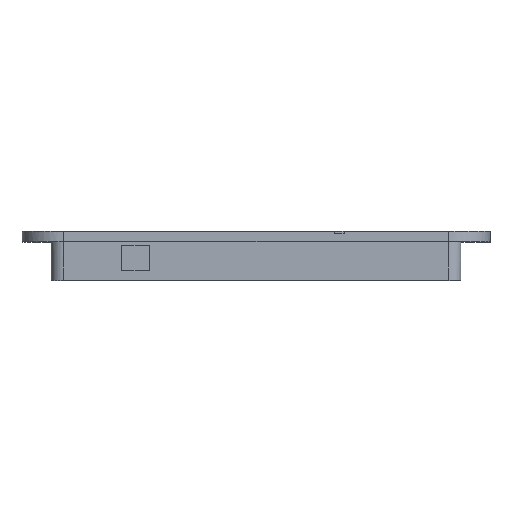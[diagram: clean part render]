
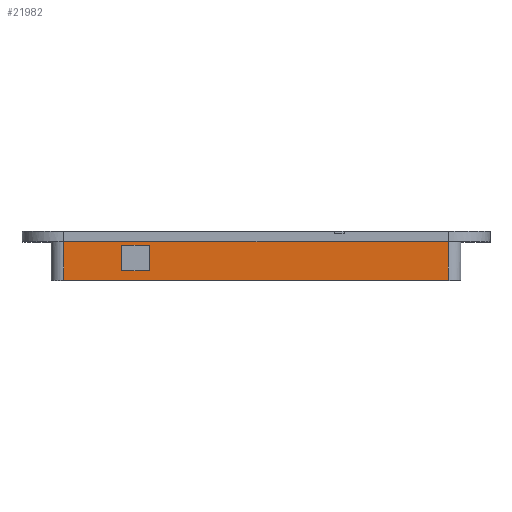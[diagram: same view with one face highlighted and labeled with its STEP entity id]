
A CAD part, top view. The second image highlights one B-rep face of the part: STEP entity #21982.
In plain terms, the highlighted free-form (B-spline) face has degree [1, 1] with [2, 2] control points.
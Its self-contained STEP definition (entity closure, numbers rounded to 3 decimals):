
#328 = CARTESIAN_POINT ( 'NONE',  ( -83., -123.7, 88.4 ) ) ;
#952 = ORIENTED_EDGE ( 'NONE', *, *, #31150, .F. ) ;
#977 = EDGE_CURVE ( 'NONE', #11207, #2646, #26441, .T. ) ;
#988 = VERTEX_POINT ( 'NONE', #21601 ) ;
#1149 = ORIENTED_EDGE ( 'NONE', *, *, #977, .F. ) ;
#2554 = EDGE_CURVE ( 'NONE', #8623, #11207, #11636, .T. ) ;
#2646 = VERTEX_POINT ( 'NONE', #5774 ) ;
#2700 = B_SPLINE_CURVE_WITH_KNOTS ( 'NONE', 1,
 ( #26110, #7542 ),
 .UNSPECIFIED., .F., .F.,
 ( 2, 2 ),
 ( 0., 1. ),
 .UNSPECIFIED. ) ;
#3053 = ORIENTED_EDGE ( 'NONE', *, *, #6230, .F. ) ;
#4961 = VERTEX_POINT ( 'NONE', #33597 ) ;
#4980 = EDGE_CURVE ( 'NONE', #24615, #4961, #11233, .T. ) ;
#5341 = CARTESIAN_POINT ( 'NONE',  ( -83., -107., 88.4 ) ) ;
#5682 = FACE_BOUND ( 'NONE', #5913, .T. ) ;
#5774 = CARTESIAN_POINT ( 'NONE',  ( -46., -119.7, 88.4 ) ) ;
#5913 = EDGE_LOOP ( 'NONE', ( #31842, #952, #11169, #1149 ) ) ;
#6171 = CARTESIAN_POINT ( 'NONE',  ( -83., -107., 88.4 ) ) ;
#6230 = EDGE_CURVE ( 'NONE', #24615, #988, #30421, .T. ) ;
#7268 = CARTESIAN_POINT ( 'NONE',  ( 83., -123.7, 88.4 ) ) ;
#7542 = CARTESIAN_POINT ( 'NONE',  ( -46., -108.7, 88.4 ) ) ;
#8002 = B_SPLINE_CURVE_WITH_KNOTS ( 'NONE', 1,
 ( #31876, #8306 ),
 .UNSPECIFIED., .F., .F.,
 ( 2, 2 ),
 ( 0., 1. ),
 .UNSPECIFIED. ) ;
#8306 = CARTESIAN_POINT ( 'NONE',  ( 83., -107., 88.4 ) ) ;
#8623 = VERTEX_POINT ( 'NONE', #13908 ) ;
#9380 = VERTEX_POINT ( 'NONE', #23976 ) ;
#9847 = CARTESIAN_POINT ( 'NONE',  ( -83., -123.7, 88.4 ) ) ;
#10676 = CARTESIAN_POINT ( 'NONE',  ( -83., -107., 88.4 ) ) ;
#11169 = ORIENTED_EDGE ( 'NONE', *, *, #25784, .F. ) ;
#11207 = VERTEX_POINT ( 'NONE', #22347 ) ;
#11233 = B_SPLINE_CURVE_WITH_KNOTS ( 'NONE', 1,
 ( #9847, #7268 ),
 .UNSPECIFIED., .F., .F.,
 ( 2, 2 ),
 ( 0., 1. ),
 .UNSPECIFIED. ) ;
#11616 = CARTESIAN_POINT ( 'NONE',  ( -58., -108.7, 88.4 ) ) ;
#11628 = ORIENTED_EDGE ( 'NONE', *, *, #4980, .T. ) ;
#11636 = B_SPLINE_CURVE_WITH_KNOTS ( 'NONE', 1,
 ( #11616, #24527 ),
 .UNSPECIFIED., .F., .F.,
 ( 2, 2 ),
 ( 0., 1. ),
 .UNSPECIFIED. ) ;
#13198 = EDGE_LOOP ( 'NONE', ( #3053, #11628, #15594, #14623 ) ) ;
#13343 = CARTESIAN_POINT ( 'NONE',  ( -58., -108.7, 88.4 ) ) ;
#13409 = CARTESIAN_POINT ( 'NONE',  ( -83., -123.7, 88.4 ) ) ;
#13908 = CARTESIAN_POINT ( 'NONE',  ( -58., -108.7, 88.4 ) ) ;
#14586 = CARTESIAN_POINT ( 'NONE',  ( -46., -108.7, 88.4 ) ) ;
#14623 = ORIENTED_EDGE ( 'NONE', *, *, #15078, .F. ) ;
#15078 = EDGE_CURVE ( 'NONE', #988, #9380, #15868, .T. ) ;
#15594 = ORIENTED_EDGE ( 'NONE', *, *, #28204, .T. ) ;
#15660 = CARTESIAN_POINT ( 'NONE',  ( 83., -107., 88.4 ) ) ;
#15868 = B_SPLINE_CURVE_WITH_KNOTS ( 'NONE', 1,
 ( #6171, #26646 ),
 .UNSPECIFIED., .F., .F.,
 ( 2, 2 ),
 ( 0., 1. ),
 .UNSPECIFIED. ) ;
#21601 = CARTESIAN_POINT ( 'NONE',  ( -83., -107., 88.4 ) ) ;
#21982 = ADVANCED_FACE ( 'NONE', ( #5682, #26499 ), #23090, .F. ) ;
#22094 = CARTESIAN_POINT ( 'NONE',  ( -58., -119.7, 88.4 ) ) ;
#22347 = CARTESIAN_POINT ( 'NONE',  ( -58., -119.7, 88.4 ) ) ;
#23090 = B_SPLINE_SURFACE_WITH_KNOTS ( 'NONE', 1, 1, ( 
 ( #23227, #15660 ),
 ( #328, #10676 ) ),
 .UNSPECIFIED., .F., .F., .F.,
 ( 2, 2 ),
 ( 2, 2 ),
 ( 0., 1. ),
 ( 0., 1. ),
 .UNSPECIFIED. ) ;
#23227 = CARTESIAN_POINT ( 'NONE',  ( 83., -123.7, 88.4 ) ) ;
#23976 = CARTESIAN_POINT ( 'NONE',  ( 83., -107., 88.4 ) ) ;
#24527 = CARTESIAN_POINT ( 'NONE',  ( -58., -119.7, 88.4 ) ) ;
#24615 = VERTEX_POINT ( 'NONE', #13409 ) ;
#25784 = EDGE_CURVE ( 'NONE', #2646, #33178, #2700, .T. ) ;
#26110 = CARTESIAN_POINT ( 'NONE',  ( -46., -119.7, 88.4 ) ) ;
#26169 = CARTESIAN_POINT ( 'NONE',  ( -83., -123.7, 88.4 ) ) ;
#26441 = B_SPLINE_CURVE_WITH_KNOTS ( 'NONE', 1,
 ( #22094, #29663 ),
 .UNSPECIFIED., .F., .F.,
 ( 2, 2 ),
 ( 0., 1. ),
 .UNSPECIFIED. ) ;
#26499 = FACE_OUTER_BOUND ( 'NONE', #13198, .T. ) ;
#26646 = CARTESIAN_POINT ( 'NONE',  ( 83., -107., 88.4 ) ) ;
#26756 = CARTESIAN_POINT ( 'NONE',  ( -46., -108.7, 88.4 ) ) ;
#28204 = EDGE_CURVE ( 'NONE', #4961, #9380, #8002, .T. ) ;
#29663 = CARTESIAN_POINT ( 'NONE',  ( -46., -119.7, 88.4 ) ) ;
#30421 = B_SPLINE_CURVE_WITH_KNOTS ( 'NONE', 1,
 ( #26169, #5341 ),
 .UNSPECIFIED., .F., .F.,
 ( 2, 2 ),
 ( -1., 0. ),
 .UNSPECIFIED. ) ;
#31150 = EDGE_CURVE ( 'NONE', #33178, #8623, #32169, .T. ) ;
#31842 = ORIENTED_EDGE ( 'NONE', *, *, #2554, .F. ) ;
#31876 = CARTESIAN_POINT ( 'NONE',  ( 83., -123.7, 88.4 ) ) ;
#32169 = B_SPLINE_CURVE_WITH_KNOTS ( 'NONE', 1,
 ( #26756, #13343 ),
 .UNSPECIFIED., .F., .F.,
 ( 2, 2 ),
 ( 0., 1. ),
 .UNSPECIFIED. ) ;
#33178 = VERTEX_POINT ( 'NONE', #14586 ) ;
#33597 = CARTESIAN_POINT ( 'NONE',  ( 83., -123.7, 88.4 ) ) ;
